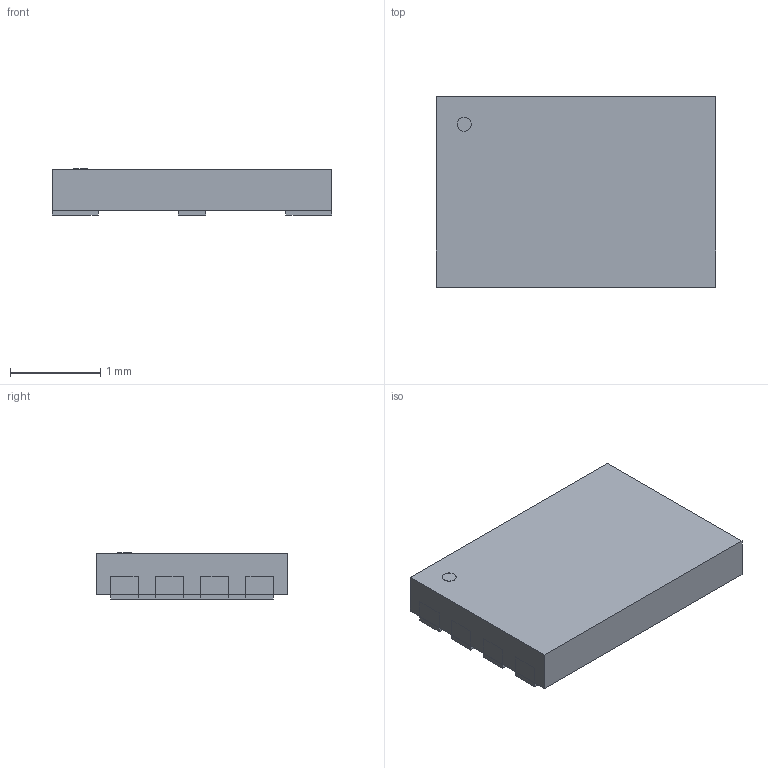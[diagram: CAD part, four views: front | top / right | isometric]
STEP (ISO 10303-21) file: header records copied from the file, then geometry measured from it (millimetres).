
FILE_DESCRIPTION(('STEP AP214'),'1');
FILE_NAME('USON-8L_3X2_APY','2026-04-08T05:55:39',(''),(''),'','','');
FILE_SCHEMA(('AUTOMOTIVE_DESIGN'));
Length unit declared in the file: millimetre
Products named in the file (1): product
Bounding box: 3.1 x 2.11 x 0.51 mm (x, y, z)
Volume: 3.1 mm3; surface area: 23.2 mm2
Topology: 11 solids, 11 shells, 79 faces, 155 edges, 98 vertices
Faces by surface type: plane 78, cylinder 1
Full cylindrical faces by diameter (mm): 0.155 x1
Entity records: 2165 total; most frequent: ORIENTED_EDGE 340, DIRECTION 334, CARTESIAN_POINT 197, EDGE_CURVE 170, LINE 168, VECTOR 168, VERTEX_POINT 114, AXIS2_PLACEMENT_3D 83
